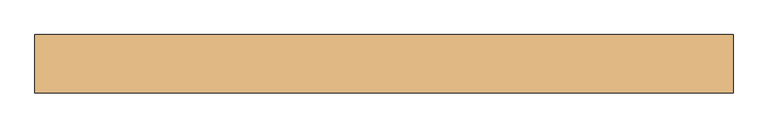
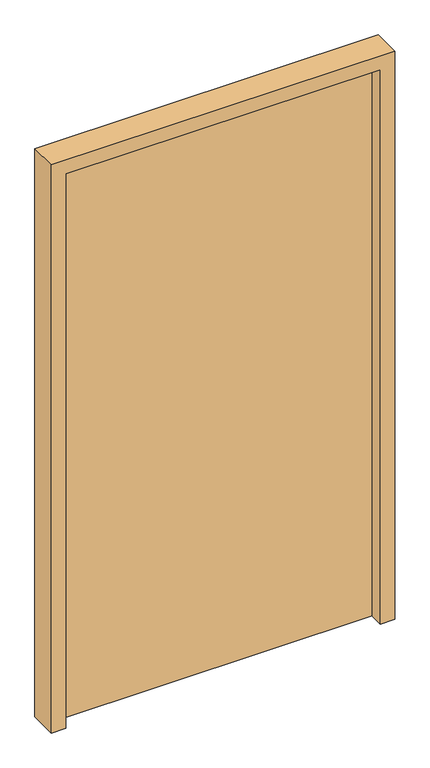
"""IFC4 building model written with IfcOpenShell, lengths in millimetres: door geometry, (Dr)_ДУ(распашная)_1Ст_Прямоугольная : (Вн)_ДГ(1.20х2.1(h))."""

from ifc_helpers import new_model, si_unit, frame, origin, origin_with_axes, place, context, project, spatial, polyline, outline, extrude, source, transform, mapped, element, save


def door_d9ea8988(model_context):
    return source(origin(), model_context, "Body", "SweptSolid", [
        extrude(outline(polyline([(-550.0, 100.0), (550.0, 100.0), (550.0, 50.0), (-550.0, 50.0), (-550.0, 100.0)])), origin_with_axes(), (0.0, 0.0, 1.0), 2050.0),
        extrude(outline(polyline([(0.0, -600.0), (0.0, -550.0), (2050.0, -550.0), (2050.0, 550.0), (0.0, 550.0), (0.0, 600.0), (2100.0, 600.0), (2100.0, -600.0), (0.0, -600.0)])), frame((0.0, 0.0, 0.0), z_axis=(0.0, 1.0, 0.0), x_axis=(0.0, 0.0, 1.0)), (0.0, 0.0, 1.0), 100.0),
    ])


if __name__ == "__main__":
    model = new_model("IFC4")
    model_context = context("Model", 3, world=origin())
    ifc_project = project(units=[si_unit("LENGTHUNIT", "METRE", prefix="MILLI")], contexts=[model_context])
    site = spatial("IfcSite", under=ifc_project)
    building = spatial("IfcBuilding", under=site)
    placement = place(None, origin())
    door_shape = door_d9ea8988(model_context)
    element("IfcDoor", 1, ObjectType="(Dr)_ДУ(распашная)_1Ст_Прямоугольная : (Вн)_ДГ(1.20х2.1(h))", at=placement, inside=building, context=model_context, shape_type="MappedRepresentation", body=[
        mapped(door_shape, transform((0.0, 0.0, 0.0), x_axis=(1.0, 0.0, 0.0), y_axis=(0.0, 1.0, 0.0), z_axis=(0.0, 0.0, 1.0))),
    ])
    save(model, "model.ifc")
